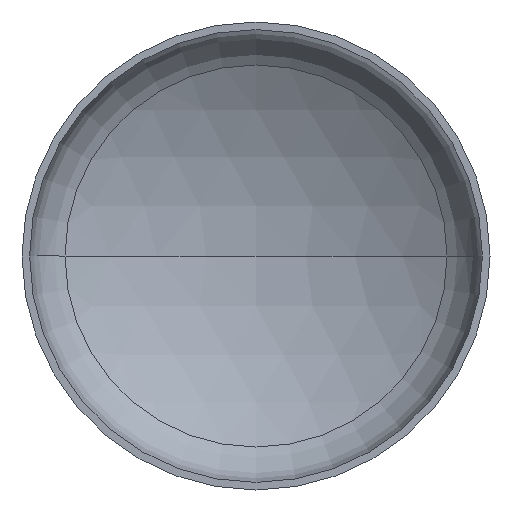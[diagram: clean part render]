
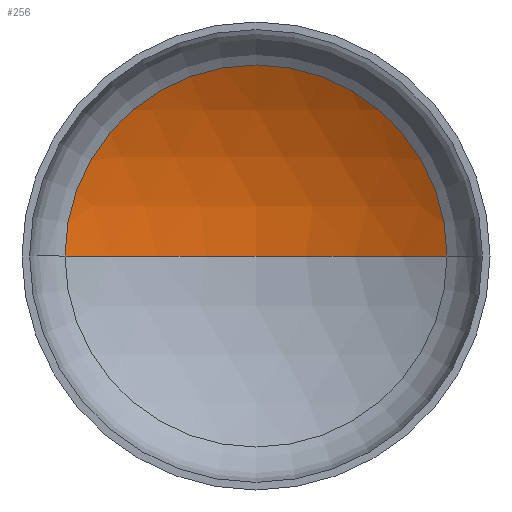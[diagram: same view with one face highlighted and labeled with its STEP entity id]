
A CAD part, front view. The second image highlights one B-rep face of the part: STEP entity #256.
In plain terms, the highlighted spherical face has radius 5600 mm.
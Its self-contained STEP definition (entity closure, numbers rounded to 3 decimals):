
#33 = AXIS2_PLACEMENT_3D ( 'NONE', #181, #289, #267 ) ;
#34 = ORIENTED_EDGE ( 'NONE', *, *, #136, .F. ) ;
#67 = AXIS2_PLACEMENT_3D ( 'NONE', #199, #360, #223 ) ;
#70 = AXIS2_PLACEMENT_3D ( 'NONE', #403, #263, #89 ) ;
#71 = VERTEX_POINT ( 'NONE', #215 ) ;
#73 = VERTEX_POINT ( 'NONE', #241 ) ;
#78 = AXIS2_PLACEMENT_3D ( 'NONE', #284, #151, #307 ) ;
#89 = DIRECTION ( 'NONE',  ( -1., 0., 0. ) ) ;
#109 = ORIENTED_EDGE ( 'NONE', *, *, #128, .T. ) ;
#128 = EDGE_CURVE ( 'NONE', #73, #372, #338, .T. ) ;
#133 = EDGE_CURVE ( 'NONE', #71, #73, #222, .T. ) ;
#136 = EDGE_CURVE ( 'NONE', #71, #372, #396, .T. ) ;
#146 = EDGE_LOOP ( 'NONE', ( #34, #358, #109 ) ) ;
#151 = DIRECTION ( 'NONE',  ( 0., -1., 0. ) ) ;
#181 = CARTESIAN_POINT ( 'NONE',  ( 0., -3812.514, 0. ) ) ;
#199 = CARTESIAN_POINT ( 'NONE',  ( 0., -3812.514, 0. ) ) ;
#215 = CARTESIAN_POINT ( 'NONE',  ( 0., 1787.486, 0. ) ) ;
#222 = CIRCLE ( 'NONE', #70, 5600. ) ;
#223 = DIRECTION ( 'NONE',  ( 1., 0., 0. ) ) ;
#241 = CARTESIAN_POINT ( 'NONE',  ( 2856.991, 1003.875, 0. ) ) ;
#256 = ADVANCED_FACE ( 'NONE', ( #318 ), #258, .F. ) ;
#258 = SPHERICAL_SURFACE ( 'NONE', #33, 5600. ) ;
#263 = DIRECTION ( 'NONE',  ( 0., 0., -1. ) ) ;
#267 = DIRECTION ( 'NONE',  ( -1., 0., 0. ) ) ;
#284 = CARTESIAN_POINT ( 'NONE',  ( 0., 1003.875, 0. ) ) ;
#289 = DIRECTION ( 'NONE',  ( 0., 0., -1. ) ) ;
#307 = DIRECTION ( 'NONE',  ( 1., 0., 0. ) ) ;
#315 = CARTESIAN_POINT ( 'NONE',  ( -2856.991, 1003.875, 0. ) ) ;
#318 = FACE_OUTER_BOUND ( 'NONE', #146, .T. ) ;
#338 = CIRCLE ( 'NONE', #78, 2856.991 ) ;
#358 = ORIENTED_EDGE ( 'NONE', *, *, #133, .T. ) ;
#360 = DIRECTION ( 'NONE',  ( 0., 0., 1. ) ) ;
#372 = VERTEX_POINT ( 'NONE', #315 ) ;
#396 = CIRCLE ( 'NONE', #67, 5600. ) ;
#403 = CARTESIAN_POINT ( 'NONE',  ( 0., -3812.514, 0. ) ) ;
